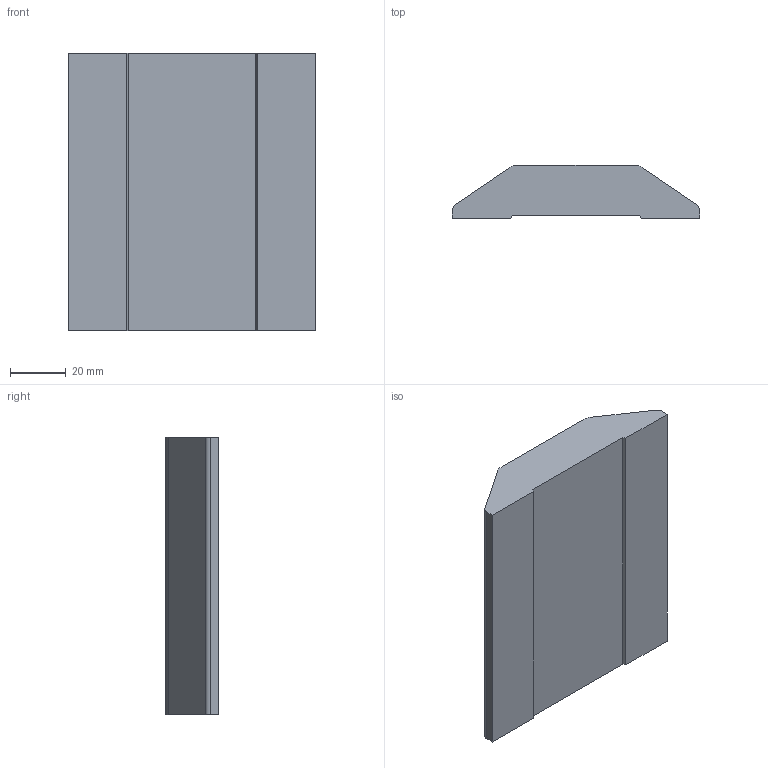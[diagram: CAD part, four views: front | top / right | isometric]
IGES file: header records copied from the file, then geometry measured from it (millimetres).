
Global section: file name: No Iges File Name specified; native system: Autodesk Inventor 2012; preprocessor: AutoDesk Inventor Iges Exporter R2012; author: anna.b; date: 20131108.145944; units: millimetre
Bounding box: 89 x 19 x 100 mm (x, y, z)
Volume: 131500.7 mm3; surface area: 22231.8 mm2
Topology: 1 solids, 1 shells, 16 faces, 42 edges, 28 vertices
Faces by surface type: plane 12, cylinder 4
